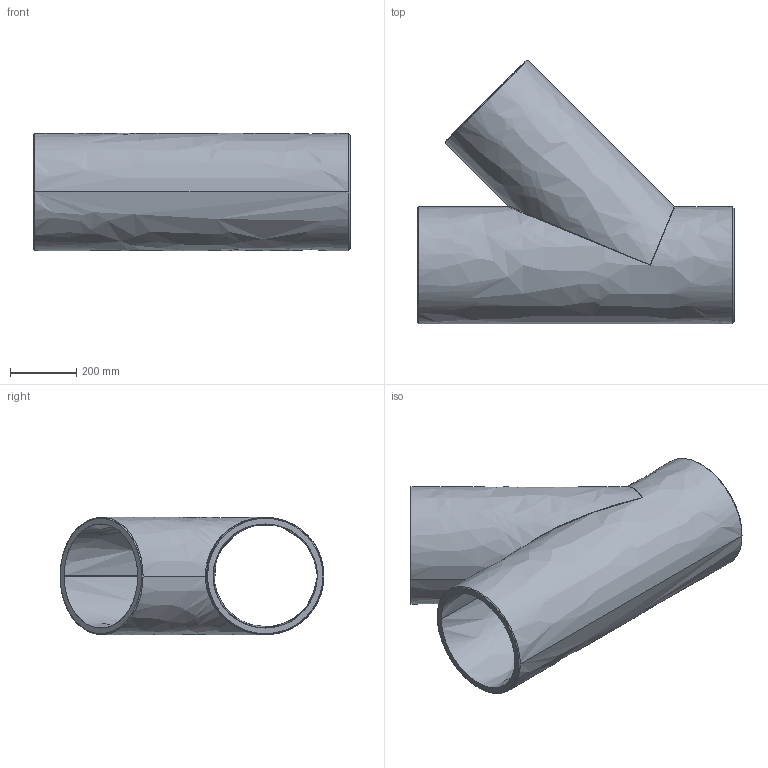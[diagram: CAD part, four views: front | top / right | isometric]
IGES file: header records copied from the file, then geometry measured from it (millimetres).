
Start section:  PTC IGES file: ats45_d355.igs
Global section: file name: ats45_d355.igs; native system: Pro/ENGINEER by Parametric Technology Corporation; preprocessor: 2011490; author: mtunjic; organization: Unknown; date: 20130724.093519; units: millimetre
Bounding box: 957 x 797.99 x 355 mm (x, y, z)
Surface area: 3133325.7 mm2 (no closed solid volume)
Topology: 0 solids, 0 shells, 22 faces, 106 edges, 106 vertices
Faces by surface type: bspline 22
